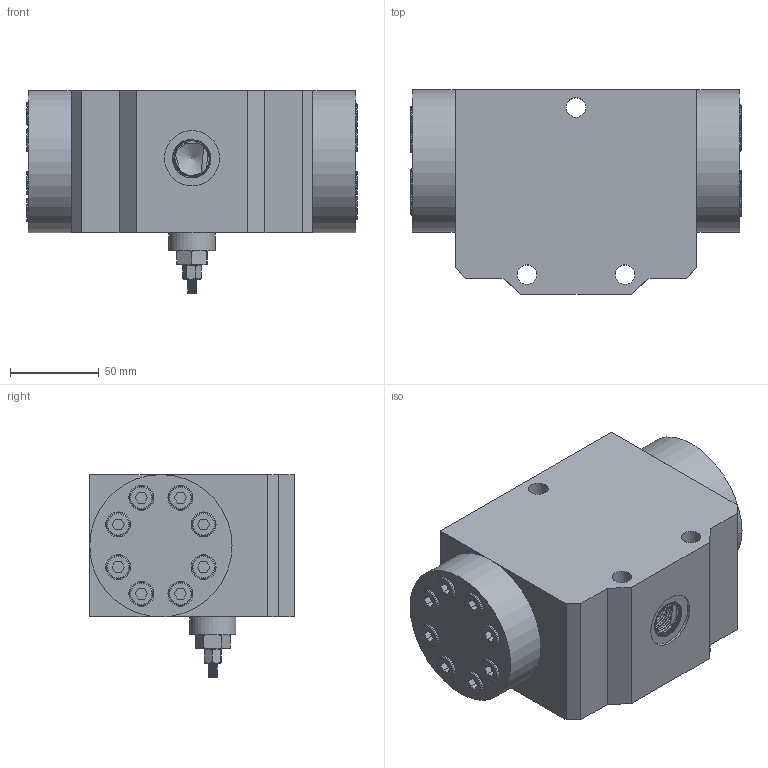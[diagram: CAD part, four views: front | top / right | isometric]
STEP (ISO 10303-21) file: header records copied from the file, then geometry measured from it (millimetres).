
FILE_DESCRIPTION(/* description */ (''),/* implementation_level */ '2;1');
FILE_NAME(/* name */ '3FJLk-L10-50-X.stp',/* time_stamp */ '2023-05-05T13:43:25+08:00',/* author */ (''),/* organization */ (''),/* preprocessor_version */ 'ST-DEVELOPER v16.7',/* originating_system */ 'SIEMENS PLM Software NX 12.0',/* authorisation */ '');
FILE_SCHEMA (('AUTOMOTIVE_DESIGN { 1 0 10303 214 3 1 1 1 }'));
Length unit declared in the file: millimetre
Products named in the file (1): 6-2
Bounding box: 186 x 115 x 114 mm (x, y, z)
Volume: 1397146.7 mm3; surface area: 168822.9 mm2
Topology: 23 solids, 23 shells, 504 faces, 1222 edges, 815 vertices
Faces by surface type: plane 299, cylinder 129, cone 35, torus 30, bspline 11
Full cylindrical faces by diameter (mm): 6.8 x16, 8 x16, 9 x16, 11 x3, 13 x16, 14 x16, 26 x3, 31 x1, 80 x2
Entity records: 34361 total; most frequent: CARTESIAN_POINT 23452, DIRECTION 2198, ORIENTED_EDGE 1918, EDGE_CURVE 959, AXIS2_PLACEMENT_3D 826, EDGE_LOOP 751, VERTEX_POINT 729, LINE 546
